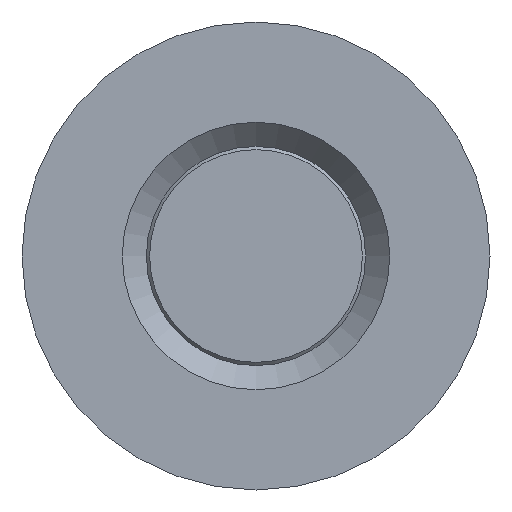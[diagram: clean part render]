
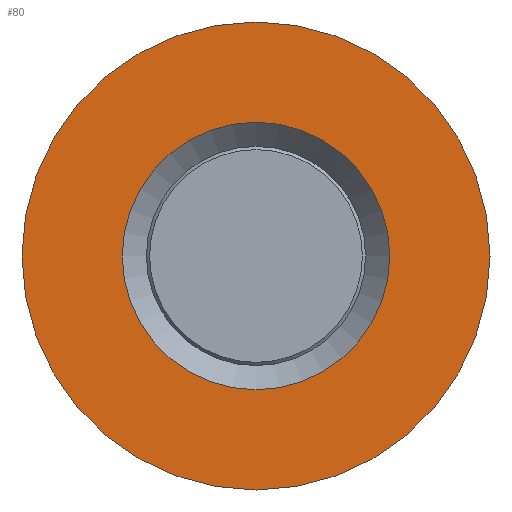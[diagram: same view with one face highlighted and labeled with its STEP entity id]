
A CAD part, front view. The second image highlights one B-rep face of the part: STEP entity #80.
In plain terms, the highlighted planar face has unit normal (0, -1, 0).
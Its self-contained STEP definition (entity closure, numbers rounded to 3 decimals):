
#80 = ADVANCED_FACE( '', ( #113, #114 ), #115, .F. );
#113 = FACE_BOUND( '', #174, .T. );
#114 = FACE_OUTER_BOUND( '', #175, .T. );
#115 = PLANE( '', #176 );
#174 = EDGE_LOOP( '', ( #245 ) );
#175 = EDGE_LOOP( '', ( #246 ) );
#176 = AXIS2_PLACEMENT_3D( '', #247, #248, #249 );
#245 = ORIENTED_EDGE( '', *, *, #362, .F. );
#246 = ORIENTED_EDGE( '', *, *, #363, .T. );
#247 = CARTESIAN_POINT( '', ( 5.25, 0., 0. ) );
#248 = DIRECTION( '', ( 0., 1., 0. ) );
#249 = DIRECTION( '', ( 0., 0., 1. ) );
#362 = EDGE_CURVE( '', #401, #401, #402, .T. );
#363 = EDGE_CURVE( '', #403, #403, #404, .T. );
#401 = VERTEX_POINT( '', #461 );
#402 = CIRCLE( '', #462, 3. );
#403 = VERTEX_POINT( '', #463 );
#404 = CIRCLE( '', #464, 5.25 );
#461 = CARTESIAN_POINT( '', ( 0., 0., -3. ) );
#462 = AXIS2_PLACEMENT_3D( '', #545, #546, #547 );
#463 = CARTESIAN_POINT( '', ( 0., 0., -5.25 ) );
#464 = AXIS2_PLACEMENT_3D( '', #548, #549, #550 );
#545 = CARTESIAN_POINT( '', ( 0., 0., 0. ) );
#546 = DIRECTION( '', ( 0., -1., 0. ) );
#547 = DIRECTION( '', ( 0., 0., -1. ) );
#548 = CARTESIAN_POINT( '', ( 0., 0., 0. ) );
#549 = DIRECTION( '', ( 0., -1., 0. ) );
#550 = DIRECTION( '', ( 0., 0., -1. ) );
